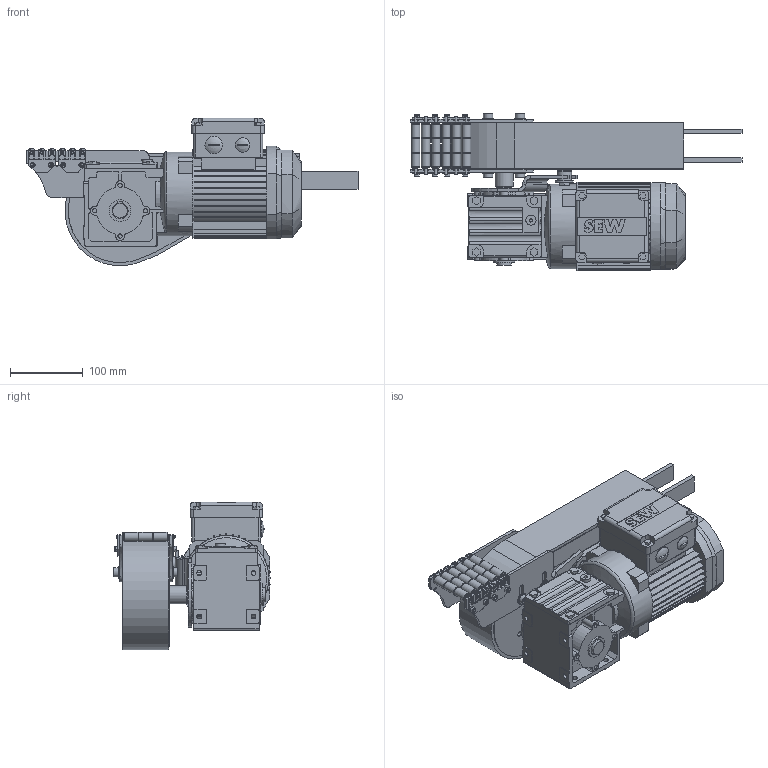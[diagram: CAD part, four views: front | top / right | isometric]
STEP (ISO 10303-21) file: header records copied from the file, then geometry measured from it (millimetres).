
FILE_DESCRIPTION(/* description */ (''),/* implementation_level */ '2;1');
FILE_NAME(/* name */ 'C:\CAD-MAG-2021\Technik\20_MAG-Konstruktion\01_FT - Fördertechnik\58000\57706-LD..stp',/* time_stamp */ '2024-09-25T13:49:58+02:00',/* author */ ('dwt0'),/* organization */ ('MAG'),/* preprocessor_version */ 'ST-DEVELOPER v18.1',/* originating_system */ 'Autodesk Inventor 2021',/* authorisation */ '');
FILE_SCHEMA (('CONFIG_CONTROL_DESIGN'));
Length unit declared in the file: millimetre
Products named in the file (1): 57706-LD
Bounding box: 457.75 x 216.8 x 203.42 mm (x, y, z)
Volume: 5797845.6 mm3; surface area: 493652 mm2
Topology: 13 solids, 23 shells, 2268 faces, 6112 edges, 3988 vertices
Faces by surface type: plane 1255, cylinder 927, cone 55, bspline 15, torus 14, sphere 2
Full cylindrical faces by diameter (mm): 3.242 x8, 4 x21, 4.5 x8, 5 x12, 6 x26, 6.2 x18, 6.6 x16, 6.647 x8, 7 x8, 8 x5, 8.1 x1, 10 x1, 11.63 x1, 12 x20, 12.1 x1, 13 x4, 14 x1, 16 x5, 18.3 x4, 20 x5, 24 x1, 25 x2, 30 x2, 35 x2, 50 x1, 86 x1, 117 x1
Entity records: 75454 total; most frequent: CARTESIAN_POINT 14272, DIRECTION 12758, ORIENTED_EDGE 12198, EDGE_CURVE 6100, AXIS2_PLACEMENT_3D 4568, VERTEX_POINT 3988, LINE 3622, VECTOR 3622
